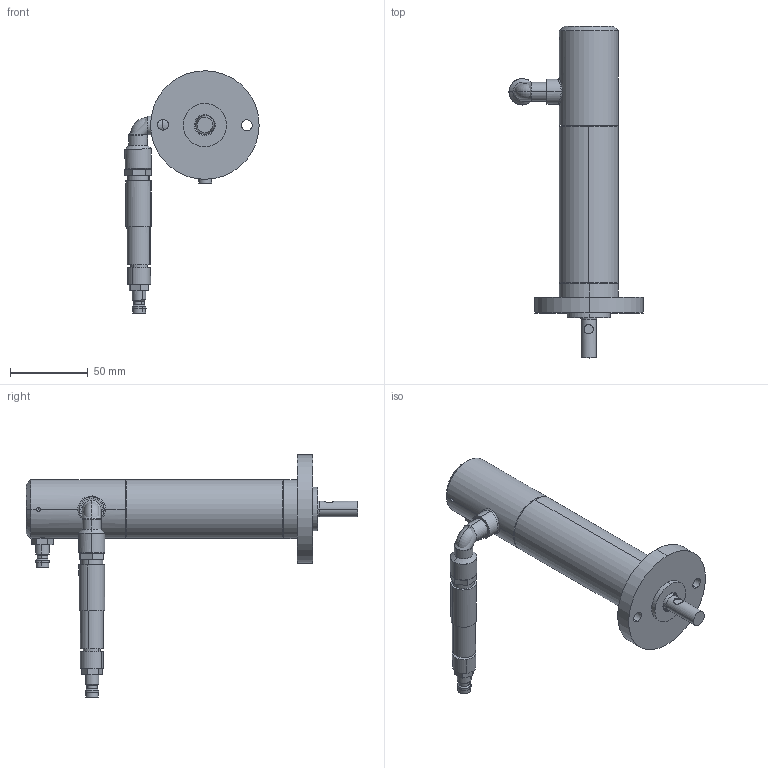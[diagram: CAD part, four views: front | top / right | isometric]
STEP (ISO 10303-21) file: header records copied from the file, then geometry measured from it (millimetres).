
FILE_DESCRIPTION (( 'STEP AP214' ), '1' );
FILE_NAME ('PMR28GA.STEP', '2019-03-19T12:05:22', ( '' ), ( '' ), 'SwSTEP 2.0', 'SolidWorks 2018', '' );
FILE_SCHEMA (( 'AUTOMOTIVE_DESIGN' ));
Length unit declared in the file: millimetre
Products named in the file (12): Flansch Serie PMR; Rändelschraube GA; Schnellkupplung; Ventil; Rändelschraube; Winkel; Kopie von Distanzring PLR 11^PMR28GA; Kopie von Deckel PLR 11^PMR28GA; Kopie von Stator PLR 11^PMR28GA; Kopie von Rotor PLR 11^PMR28GA; Kopie von Motorblock PLR 11^PMR28GA; PMR28GA
Assembly tree (12 placements, depth 3):
  PMR28GA
    Kopie von Motorblock PLR 11^PMR28GA
    Kopie von Rotor PLR 11^PMR28GA
    Kopie von Stator PLR 11^PMR28GA
    Kopie von Deckel PLR 11^PMR28GA
    Kopie von Distanzring PLR 11^PMR28GA
    Winkel
    Rändelschraube GA
      Rändelschraube
      Ventil
      Schnellkupplung
    Schnellkupplung
    Flansch Serie PMR
Bounding box: 86.58 x 214 x 156.33 mm (x, y, z)
Volume: 243381 mm3; surface area: 81342.4 mm2
Topology: 11 solids, 11 shells, 272 faces, 568 edges, 358 vertices
Faces by surface type: cylinder 140, plane 88, cone 32, torus 10, bspline 2
Entity records: 7922 total; most frequent: CARTESIAN_POINT 1851, DIRECTION 1260, ORIENTED_EDGE 992, AXIS2_PLACEMENT_3D 535, EDGE_CURVE 496, VERTEX_POINT 316, EDGE_LOOP 296, CIRCLE 280
